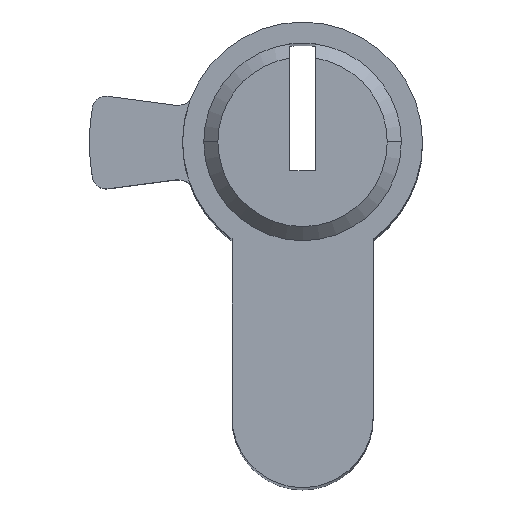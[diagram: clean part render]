
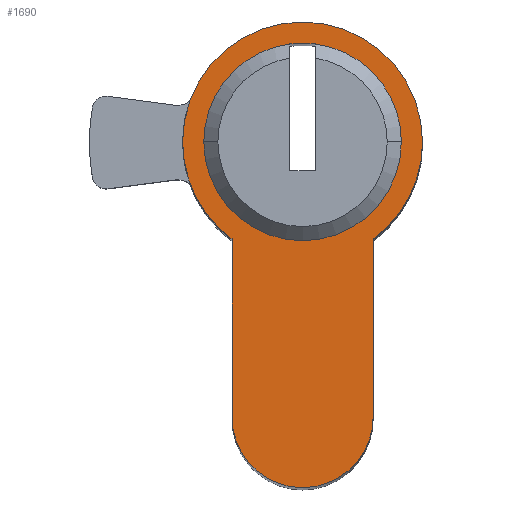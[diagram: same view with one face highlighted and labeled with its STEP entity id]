
A CAD part, top view. The second image highlights one B-rep face of the part: STEP entity #1690.
In plain terms, the highlighted planar face has unit normal (0, 0, 1).
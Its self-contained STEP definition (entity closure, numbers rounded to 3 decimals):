
#5 = DIRECTION ( 'NONE',  ( 0., 0., 1. ) ) ;
#48 = DIRECTION ( 'NONE',  ( 0., 0., 1. ) ) ;
#121 = CIRCLE ( 'NONE', #583, 7. ) ;
#149 = CARTESIAN_POINT ( 'NONE',  ( 0., 0., 30. ) ) ;
#156 = DIRECTION ( 'NONE',  ( 0., -1., 0. ) ) ;
#167 = EDGE_CURVE ( 'NONE', #1356, #851, #1064, .T. ) ;
#181 = DIRECTION ( 'NONE',  ( 0., 0., 1. ) ) ;
#199 = CARTESIAN_POINT ( 'NONE',  ( -8.5, 0., 30. ) ) ;
#209 = AXIS2_PLACEMENT_3D ( 'NONE', #501, #1432, #744 ) ;
#215 = VERTEX_POINT ( 'NONE', #1631 ) ;
#219 = DIRECTION ( 'NONE',  ( 1., 0., 0. ) ) ;
#238 = VERTEX_POINT ( 'NONE', #1658 ) ;
#262 = DIRECTION ( 'NONE',  ( 1., 0., 0. ) ) ;
#268 = ORIENTED_EDGE ( 'NONE', *, *, #1572, .F. ) ;
#297 = VECTOR ( 'NONE', #156, 1000. ) ;
#298 = AXIS2_PLACEMENT_3D ( 'NONE', #1157, #181, #1439 ) ;
#308 = ORIENTED_EDGE ( 'NONE', *, *, #892, .T. ) ;
#343 = EDGE_CURVE ( 'NONE', #238, #1238, #532, .T. ) ;
#345 = FACE_BOUND ( 'NONE', #1288, .T. ) ;
#374 = DIRECTION ( 'NONE',  ( 0., 0., 1. ) ) ;
#386 = EDGE_LOOP ( 'NONE', ( #308, #861, #1186, #974, #463, #1353 ) ) ;
#389 = DIRECTION ( 'NONE',  ( 0., 0., 1. ) ) ;
#425 = VERTEX_POINT ( 'NONE', #1028 ) ;
#463 = ORIENTED_EDGE ( 'NONE', *, *, #929, .T. ) ;
#501 = CARTESIAN_POINT ( 'NONE',  ( 0., -19.5, 30. ) ) ;
#526 = VERTEX_POINT ( 'NONE', #1774 ) ;
#530 = AXIS2_PLACEMENT_3D ( 'NONE', #679, #389, #262 ) ;
#532 = CIRCLE ( 'NONE', #1065, 7. ) ;
#552 = CIRCLE ( 'NONE', #209, 5. ) ;
#569 = CARTESIAN_POINT ( 'NONE',  ( -5., -6.874, 30. ) ) ;
#583 = AXIS2_PLACEMENT_3D ( 'NONE', #1755, #374, #946 ) ;
#608 = AXIS2_PLACEMENT_3D ( 'NONE', #1547, #1437, #219 ) ;
#625 = ORIENTED_EDGE ( 'NONE', *, *, #967, .F. ) ;
#666 = CIRCLE ( 'NONE', #863, 8.5 ) ;
#667 = VERTEX_POINT ( 'NONE', #1341 ) ;
#679 = CARTESIAN_POINT ( 'NONE',  ( 0., 0., 30. ) ) ;
#681 = VERTEX_POINT ( 'NONE', #1514 ) ;
#693 = CIRCLE ( 'NONE', #916, 7. ) ;
#744 = DIRECTION ( 'NONE',  ( 1., 0., 0. ) ) ;
#761 = CARTESIAN_POINT ( 'NONE',  ( 0., 0., 30. ) ) ;
#780 = CIRCLE ( 'NONE', #298, 8.5 ) ;
#841 = DIRECTION ( 'NONE',  ( 1., 0., 0. ) ) ;
#850 = EDGE_CURVE ( 'NONE', #1238, #425, #693, .T. ) ;
#851 = VERTEX_POINT ( 'NONE', #1453 ) ;
#861 = ORIENTED_EDGE ( 'NONE', *, *, #1326, .T. ) ;
#863 = AXIS2_PLACEMENT_3D ( 'NONE', #1286, #1167, #1558 ) ;
#882 = PLANE ( 'NONE',  #608 ) ;
#892 = EDGE_CURVE ( 'NONE', #681, #526, #666, .T. ) ;
#916 = AXIS2_PLACEMENT_3D ( 'NONE', #761, #48, #1705 ) ;
#929 = EDGE_CURVE ( 'NONE', #215, #667, #552, .T. ) ;
#946 = DIRECTION ( 'NONE',  ( 1., 0., 0. ) ) ;
#967 = EDGE_CURVE ( 'NONE', #425, #1530, #121, .T. ) ;
#974 = ORIENTED_EDGE ( 'NONE', *, *, #1170, .T. ) ;
#979 = DIRECTION ( 'NONE',  ( 1., 0., 0. ) ) ;
#1028 = CARTESIAN_POINT ( 'NONE',  ( -0.9, 6.942, 30. ) ) ;
#1064 = CIRCLE ( 'NONE', #530, 8.5 ) ;
#1065 = AXIS2_PLACEMENT_3D ( 'NONE', #149, #1140, #979 ) ;
#1088 = AXIS2_PLACEMENT_3D ( 'NONE', #1110, #5, #841 ) ;
#1110 = CARTESIAN_POINT ( 'NONE',  ( 0., 0., 30. ) ) ;
#1129 = CARTESIAN_POINT ( 'NONE',  ( 0.9, 6.942, 30. ) ) ;
#1140 = DIRECTION ( 'NONE',  ( 0., 0., 1. ) ) ;
#1157 = CARTESIAN_POINT ( 'NONE',  ( 0., 0., 30. ) ) ;
#1167 = DIRECTION ( 'NONE',  ( 0., 0., 1. ) ) ;
#1170 = EDGE_CURVE ( 'NONE', #851, #215, #1661, .T. ) ;
#1175 = CIRCLE ( 'NONE', #1088, 7. ) ;
#1186 = ORIENTED_EDGE ( 'NONE', *, *, #167, .T. ) ;
#1211 = VECTOR ( 'NONE', #1400, 1000. ) ;
#1238 = VERTEX_POINT ( 'NONE', #1129 ) ;
#1248 = ORIENTED_EDGE ( 'NONE', *, *, #343, .F. ) ;
#1263 = FACE_OUTER_BOUND ( 'NONE', #386, .T. ) ;
#1286 = CARTESIAN_POINT ( 'NONE',  ( 0., 0., 30. ) ) ;
#1288 = EDGE_LOOP ( 'NONE', ( #1662, #1248, #268, #625 ) ) ;
#1326 = EDGE_CURVE ( 'NONE', #526, #1356, #780, .T. ) ;
#1341 = CARTESIAN_POINT ( 'NONE',  ( 5., -19.5, 30. ) ) ;
#1353 = ORIENTED_EDGE ( 'NONE', *, *, #1549, .T. ) ;
#1356 = VERTEX_POINT ( 'NONE', #199 ) ;
#1378 = CARTESIAN_POINT ( 'NONE',  ( -7., 0., 30. ) ) ;
#1400 = DIRECTION ( 'NONE',  ( 0., 1., 0. ) ) ;
#1432 = DIRECTION ( 'NONE',  ( 0., 0., 1. ) ) ;
#1437 = DIRECTION ( 'NONE',  ( 0., 0., 1. ) ) ;
#1439 = DIRECTION ( 'NONE',  ( 1., 0., 0. ) ) ;
#1453 = CARTESIAN_POINT ( 'NONE',  ( -5., -6.874, 30. ) ) ;
#1509 = CARTESIAN_POINT ( 'NONE',  ( 5., -19.5, 30. ) ) ;
#1514 = CARTESIAN_POINT ( 'NONE',  ( 5., -6.874, 30. ) ) ;
#1530 = VERTEX_POINT ( 'NONE', #1378 ) ;
#1547 = CARTESIAN_POINT ( 'NONE',  ( 0., 0., 30. ) ) ;
#1549 = EDGE_CURVE ( 'NONE', #667, #681, #1674, .T. ) ;
#1558 = DIRECTION ( 'NONE',  ( 1., 0., 0. ) ) ;
#1572 = EDGE_CURVE ( 'NONE', #1530, #238, #1175, .T. ) ;
#1631 = CARTESIAN_POINT ( 'NONE',  ( -5., -19.5, 30. ) ) ;
#1658 = CARTESIAN_POINT ( 'NONE',  ( 7., 0., 30. ) ) ;
#1661 = LINE ( 'NONE', #569, #297 ) ;
#1662 = ORIENTED_EDGE ( 'NONE', *, *, #850, .F. ) ;
#1674 = LINE ( 'NONE', #1509, #1211 ) ;
#1690 = ADVANCED_FACE ( 'NONE', ( #345, #1263 ), #882, .T. ) ;
#1705 = DIRECTION ( 'NONE',  ( 1., 0., 0. ) ) ;
#1755 = CARTESIAN_POINT ( 'NONE',  ( 0., 0., 30. ) ) ;
#1774 = CARTESIAN_POINT ( 'NONE',  ( 8.5, 0., 30. ) ) ;
